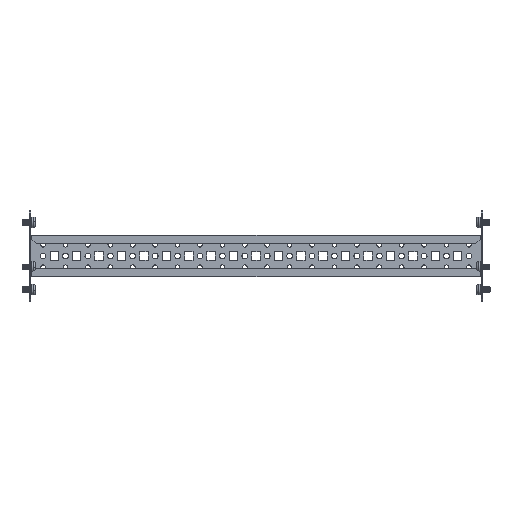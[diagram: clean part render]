
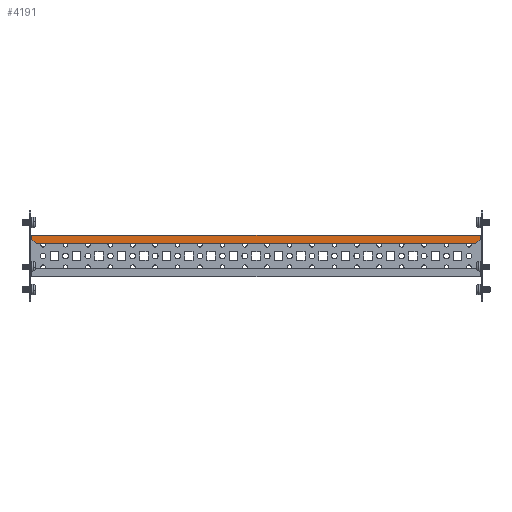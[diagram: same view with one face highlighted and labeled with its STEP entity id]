
A CAD part, front view. The second image highlights one B-rep face of the part: STEP entity #4191.
In plain terms, the highlighted planar face has unit normal (0, -1, 0).
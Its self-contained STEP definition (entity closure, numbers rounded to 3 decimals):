
#176 = ORIENTED_EDGE ( 'NONE', *, *, #14646, .F. ) ;
#503 = CARTESIAN_POINT ( 'NONE',  ( 250., -94., 13.5 ) ) ;
#1361 = EDGE_CURVE ( 'NONE', #10772, #22556, #7849, .T. ) ;
#1375 = EDGE_CURVE ( 'NONE', #20666, #12451, #15694, .T. ) ;
#1703 = LINE ( 'NONE', #17399, #24159 ) ;
#1976 = ORIENTED_EDGE ( 'NONE', *, *, #8486, .F. ) ;
#2651 = CARTESIAN_POINT ( 'NONE',  ( -250., -94., 0. ) ) ;
#3136 = CARTESIAN_POINT ( 'NONE',  ( -250., -94., 20. ) ) ;
#3852 = CARTESIAN_POINT ( 'NONE',  ( 250., -94., 18.5 ) ) ;
#3972 = CARTESIAN_POINT ( 'NONE',  ( 250., -94., 18.5 ) ) ;
#4059 = CARTESIAN_POINT ( 'NONE',  ( 250., -94., 20. ) ) ;
#4104 = FACE_OUTER_BOUND ( 'NONE', #13689, .T. ) ;
#4191 = ADVANCED_FACE ( 'NONE', ( #4104 ), #19541, .F. ) ;
#4826 = CARTESIAN_POINT ( 'NONE',  ( -250., -94., 21. ) ) ;
#5350 = VECTOR ( 'NONE', #14131, 1000. ) ;
#6171 = ORIENTED_EDGE ( 'NONE', *, *, #19091, .F. ) ;
#6615 = VERTEX_POINT ( 'NONE', #25099 ) ;
#7849 = LINE ( 'NONE', #503, #5350 ) ;
#8127 = CARTESIAN_POINT ( 'NONE',  ( 250., -94., 20. ) ) ;
#8256 = DIRECTION ( 'NONE',  ( -1., 0., 0. ) ) ;
#8356 = DIRECTION ( 'NONE',  ( 0., 0., -1. ) ) ;
#8486 = EDGE_CURVE ( 'NONE', #22461, #12451, #22170, .T. ) ;
#8532 = CARTESIAN_POINT ( 'NONE',  ( 250., -94., 23. ) ) ;
#8551 = EDGE_CURVE ( 'NONE', #10772, #20666, #16156, .T. ) ;
#8632 = LINE ( 'NONE', #16350, #12976 ) ;
#8673 = VERTEX_POINT ( 'NONE', #13055 ) ;
#9719 = ORIENTED_EDGE ( 'NONE', *, *, #8551, .T. ) ;
#10368 = DIRECTION ( 'NONE',  ( 0., 0., 1. ) ) ;
#10772 = VERTEX_POINT ( 'NONE', #8127 ) ;
#11825 = DIRECTION ( 'NONE',  ( -1., 0., 0. ) ) ;
#12451 = VERTEX_POINT ( 'NONE', #12985 ) ;
#12543 = ORIENTED_EDGE ( 'NONE', *, *, #20894, .T. ) ;
#12672 = DIRECTION ( 'NONE',  ( 0., 0., 1. ) ) ;
#12976 = VECTOR ( 'NONE', #8256, 1000. ) ;
#12985 = CARTESIAN_POINT ( 'NONE',  ( -250., -94., 23. ) ) ;
#13055 = CARTESIAN_POINT ( 'NONE',  ( -250., -94., 18.5 ) ) ;
#13629 = AXIS2_PLACEMENT_3D ( 'NONE', #21960, #14008, #8356 ) ;
#13689 = EDGE_LOOP ( 'NONE', ( #176, #12543, #6171, #22562, #18772, #9719, #14940, #1976 ) ) ;
#14008 = DIRECTION ( 'NONE',  ( 0., 1., 0. ) ) ;
#14131 = DIRECTION ( 'NONE',  ( 0., 0., -1. ) ) ;
#14646 = EDGE_CURVE ( 'NONE', #8673, #22461, #22430, .T. ) ;
#14940 = ORIENTED_EDGE ( 'NONE', *, *, #1375, .T. ) ;
#15694 = LINE ( 'NONE', #23524, #19707 ) ;
#15909 = VECTOR ( 'NONE', #17613, 1000. ) ;
#16156 = LINE ( 'NONE', #4059, #17434 ) ;
#16350 = CARTESIAN_POINT ( 'NONE',  ( -250., -94., 13.5 ) ) ;
#17399 = CARTESIAN_POINT ( 'NONE',  ( -245., -94., 13.5 ) ) ;
#17434 = VECTOR ( 'NONE', #10368, 1000. ) ;
#17613 = DIRECTION ( 'NONE',  ( 0.707, 0., 0.707 ) ) ;
#18062 = VECTOR ( 'NONE', #12672, 1000. ) ;
#18772 = ORIENTED_EDGE ( 'NONE', *, *, #1361, .F. ) ;
#19091 = EDGE_CURVE ( 'NONE', #6615, #23988, #8632, .T. ) ;
#19541 = PLANE ( 'NONE',  #13629 ) ;
#19707 = VECTOR ( 'NONE', #11825, 1000. ) ;
#20115 = EDGE_CURVE ( 'NONE', #6615, #22556, #25329, .T. ) ;
#20121 = DIRECTION ( 'NONE',  ( 0., 0., 1. ) ) ;
#20666 = VERTEX_POINT ( 'NONE', #8532 ) ;
#20894 = EDGE_CURVE ( 'NONE', #8673, #23988, #1703, .T. ) ;
#21536 = CARTESIAN_POINT ( 'NONE',  ( -245., -94., 13.5 ) ) ;
#21960 = CARTESIAN_POINT ( 'NONE',  ( 0., -94., 0. ) ) ;
#22170 = LINE ( 'NONE', #2651, #23989 ) ;
#22430 = LINE ( 'NONE', #4826, #18062 ) ;
#22461 = VERTEX_POINT ( 'NONE', #3136 ) ;
#22556 = VERTEX_POINT ( 'NONE', #3972 ) ;
#22562 = ORIENTED_EDGE ( 'NONE', *, *, #20115, .T. ) ;
#23524 = CARTESIAN_POINT ( 'NONE',  ( 0., -94., 23. ) ) ;
#23988 = VERTEX_POINT ( 'NONE', #21536 ) ;
#23989 = VECTOR ( 'NONE', #20121, 1000. ) ;
#24159 = VECTOR ( 'NONE', #25243, 1000. ) ;
#25099 = CARTESIAN_POINT ( 'NONE',  ( 245., -94., 13.5 ) ) ;
#25243 = DIRECTION ( 'NONE',  ( 0.707, 0., -0.707 ) ) ;
#25329 = LINE ( 'NONE', #3852, #15909 ) ;
